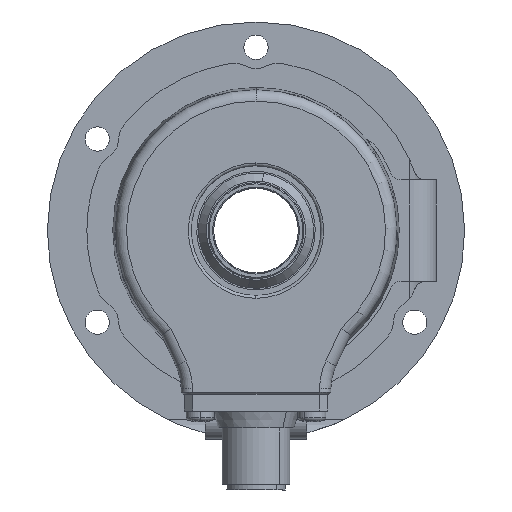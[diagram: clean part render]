
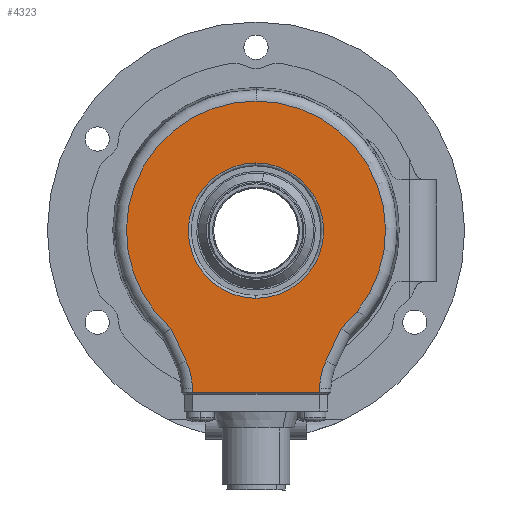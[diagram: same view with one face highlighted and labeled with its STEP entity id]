
A CAD part, left-side view. The second image highlights one B-rep face of the part: STEP entity #4323.
In plain terms, the highlighted planar face has unit normal (-1, 0, 0).
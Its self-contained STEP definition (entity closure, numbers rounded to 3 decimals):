
#1021 = EDGE_CURVE ( 'NONE', #3366, #3408, #7532, .T. ) ;
#3366 = VERTEX_POINT ( 'NONE', #14788 ) ;
#3380 = EDGE_CURVE ( 'NONE', #3796, #3366, #14857, .T. ) ;
#3408 = VERTEX_POINT ( 'NONE', #14947 ) ;
#3727 = EDGE_CURVE ( 'NONE', #3730, #3729, #15740, .T. ) ;
#3729 = VERTEX_POINT ( 'NONE', #15735 ) ;
#3730 = VERTEX_POINT ( 'NONE', #15734 ) ;
#3794 = EDGE_CURVE ( 'NONE', #3795, #3796, #15943, .T. ) ;
#3795 = VERTEX_POINT ( 'NONE', #15938 ) ;
#3796 = VERTEX_POINT ( 'NONE', #15937 ) ;
#3816 = ORIENTED_EDGE ( 'NONE', *, *, #3822, .T. ) ;
#3817 = ORIENTED_EDGE ( 'NONE', *, *, #3819, .T. ) ;
#3819 = EDGE_CURVE ( 'NONE', #3408, #3820, #16039, .T. ) ;
#3820 = VERTEX_POINT ( 'NONE', #16035 ) ;
#3822 = EDGE_CURVE ( 'NONE', #3820, #3824, #16030, .T. ) ;
#3824 = VERTEX_POINT ( 'NONE', #16026 ) ;
#3847 = ORIENTED_EDGE ( 'NONE', *, *, #3380, .T. ) ;
#3848 = ORIENTED_EDGE ( 'NONE', *, *, #1021, .T. ) ;
#3849 = ORIENTED_EDGE ( 'NONE', *, *, #3857, .T. ) ;
#3851 = EDGE_CURVE ( 'NONE', #3824, #4283, #16076, .T. ) ;
#3852 = ORIENTED_EDGE ( 'NONE', *, *, #4287, .T. ) ;
#3853 = ORIENTED_EDGE ( 'NONE', *, *, #3862, .T. ) ;
#3854 = ORIENTED_EDGE ( 'NONE', *, *, #3851, .T. ) ;
#3857 = EDGE_CURVE ( 'NONE', #3871, #3795, #16161, .T. ) ;
#3862 = EDGE_CURVE ( 'NONE', #3863, #3871, #16179, .T. ) ;
#3863 = VERTEX_POINT ( 'NONE', #16171 ) ;
#3871 = VERTEX_POINT ( 'NONE', #16214 ) ;
#3924 = ORIENTED_EDGE ( 'NONE', *, *, #3794, .T. ) ;
#4283 = VERTEX_POINT ( 'NONE', #17540 ) ;
#4287 = EDGE_CURVE ( 'NONE', #4283, #3863, #17539, .T. ) ;
#4319 = EDGE_LOOP ( 'NONE', ( #3817, #3816, #3854, #3852, #3853, #3849, #3924, #3847, #3848 ) ) ;
#4320 = ORIENTED_EDGE ( 'NONE', *, *, #3727, .T. ) ;
#4321 = ORIENTED_EDGE ( 'NONE', *, *, #4325, .T. ) ;
#4322 = EDGE_LOOP ( 'NONE', ( #4320, #4321 ) ) ;
#4323 = ADVANCED_FACE ( 'NONE', ( #17662, #17661 ), #17708, .F. ) ;
#4325 = EDGE_CURVE ( 'NONE', #3729, #3730, #17702, .T. ) ;
#7528 = DIRECTION ( 'NONE',  ( 0., 0., 1. ) ) ;
#7529 = DIRECTION ( 'NONE',  ( 1., 0., 0. ) ) ;
#7530 = CARTESIAN_POINT ( 'NONE',  ( -21., 23.266, -28.183 ) ) ;
#7531 = AXIS2_PLACEMENT_3D ( 'NONE', #7530, #7529, #7528 ) ;
#7532 = CIRCLE ( 'NONE', #7531, 12. ) ;
#14788 = CARTESIAN_POINT ( 'NONE',  ( -21., 12.39, -23.112 ) ) ;
#14854 = DIRECTION ( 'NONE',  ( 0., -0.423, -0.906 ) ) ;
#14855 = VECTOR ( 'NONE', #14854, 1000. ) ;
#14856 = CARTESIAN_POINT ( 'NONE',  ( -21., 12.39, -23.112 ) ) ;
#14857 = LINE ( 'NONE', #14856, #14855 ) ;
#14947 = CARTESIAN_POINT ( 'NONE',  ( -21., 11.268, -27.974 ) ) ;
#15734 = CARTESIAN_POINT ( 'NONE',  ( -21., 0., 12. ) ) ;
#15735 = CARTESIAN_POINT ( 'NONE',  ( -21., 0., -12. ) ) ;
#15736 = DIRECTION ( 'NONE',  ( 0., 0., 1. ) ) ;
#15737 = DIRECTION ( 'NONE',  ( 1., 0., 0. ) ) ;
#15738 = CARTESIAN_POINT ( 'NONE',  ( -21., 0., 0. ) ) ;
#15739 = AXIS2_PLACEMENT_3D ( 'NONE', #15738, #15737, #15736 ) ;
#15740 = CIRCLE ( 'NONE', #15739, 12. ) ;
#15937 = CARTESIAN_POINT ( 'NONE',  ( -21., 15.091, -17.32 ) ) ;
#15938 = CARTESIAN_POINT ( 'NONE',  ( -21., 0., 22.972 ) ) ;
#15939 = DIRECTION ( 'NONE',  ( 0., 0., 1. ) ) ;
#15940 = DIRECTION ( 'NONE',  ( -1., 0., 0. ) ) ;
#15941 = CARTESIAN_POINT ( 'NONE',  ( -21., 0., 0. ) ) ;
#15942 = AXIS2_PLACEMENT_3D ( 'NONE', #15941, #15940, #15939 ) ;
#15943 = CIRCLE ( 'NONE', #15942, 22.972 ) ;
#16026 = CARTESIAN_POINT ( 'NONE',  ( -21., -11.255, -28.695 ) ) ;
#16027 = DIRECTION ( 'NONE',  ( 0., -1., 0. ) ) ;
#16028 = VECTOR ( 'NONE', #16027, 1000. ) ;
#16029 = CARTESIAN_POINT ( 'NONE',  ( -21., -11.25, -28.695 ) ) ;
#16030 = LINE ( 'NONE', #16029, #16028 ) ;
#16035 = CARTESIAN_POINT ( 'NONE',  ( -21., 11.255, -28.695 ) ) ;
#16036 = DIRECTION ( 'NONE',  ( 0., -0.017, -1. ) ) ;
#16037 = VECTOR ( 'NONE', #16036, 1000. ) ;
#16038 = CARTESIAN_POINT ( 'NONE',  ( -21., 11.752, -0.205 ) ) ;
#16039 = LINE ( 'NONE', #16038, #16037 ) ;
#16071 = DIRECTION ( 'NONE',  ( 0., -0.017, 1. ) ) ;
#16072 = VECTOR ( 'NONE', #16071, 1000. ) ;
#16073 = CARTESIAN_POINT ( 'NONE',  ( -21., -11.752, -0.205 ) ) ;
#16076 = LINE ( 'NONE', #16073, #16072 ) ;
#16102 = CARTESIAN_POINT ( 'NONE',  ( -21., 0., 0. ) ) ;
#16158 = DIRECTION ( 'NONE',  ( 0., 0., 1. ) ) ;
#16159 = DIRECTION ( 'NONE',  ( -1., 0., 0. ) ) ;
#16160 = AXIS2_PLACEMENT_3D ( 'NONE', #16102, #16159, #16158 ) ;
#16161 = CIRCLE ( 'NONE', #16160, 22.972 ) ;
#16171 = CARTESIAN_POINT ( 'NONE',  ( -21., -12.39, -23.112 ) ) ;
#16172 = DIRECTION ( 'NONE',  ( 0., -0.423, 0.906 ) ) ;
#16173 = VECTOR ( 'NONE', #16172, 1000. ) ;
#16174 = CARTESIAN_POINT ( 'NONE',  ( -21., -14.953, -17.615 ) ) ;
#16179 = LINE ( 'NONE', #16174, #16173 ) ;
#16214 = CARTESIAN_POINT ( 'NONE',  ( -21., -15.091, -17.32 ) ) ;
#17539 = CIRCLE ( 'NONE', #17591, 12. ) ;
#17540 = CARTESIAN_POINT ( 'NONE',  ( -21., -11.268, -27.974 ) ) ;
#17588 = DIRECTION ( 'NONE',  ( 0., 0., 1. ) ) ;
#17589 = DIRECTION ( 'NONE',  ( 1., 0., 0. ) ) ;
#17590 = CARTESIAN_POINT ( 'NONE',  ( -21., -23.266, -28.183 ) ) ;
#17591 = AXIS2_PLACEMENT_3D ( 'NONE', #17590, #17589, #17588 ) ;
#17661 = FACE_OUTER_BOUND ( 'NONE', #4319, .T. ) ;
#17662 = FACE_BOUND ( 'NONE', #4322, .T. ) ;
#17698 = DIRECTION ( 'NONE',  ( 0., 0., 1. ) ) ;
#17699 = DIRECTION ( 'NONE',  ( 1., 0., 0. ) ) ;
#17700 = CARTESIAN_POINT ( 'NONE',  ( -21., 0., 0. ) ) ;
#17701 = AXIS2_PLACEMENT_3D ( 'NONE', #17700, #17699, #17698 ) ;
#17702 = CIRCLE ( 'NONE', #17701, 12. ) ;
#17704 = DIRECTION ( 'NONE',  ( 0., 0., 1. ) ) ;
#17705 = DIRECTION ( 'NONE',  ( 1., 0., 0. ) ) ;
#17706 = CARTESIAN_POINT ( 'NONE',  ( -21., 0., 0. ) ) ;
#17707 = AXIS2_PLACEMENT_3D ( 'NONE', #17706, #17705, #17704 ) ;
#17708 = PLANE ( 'NONE',  #17707 ) ;
